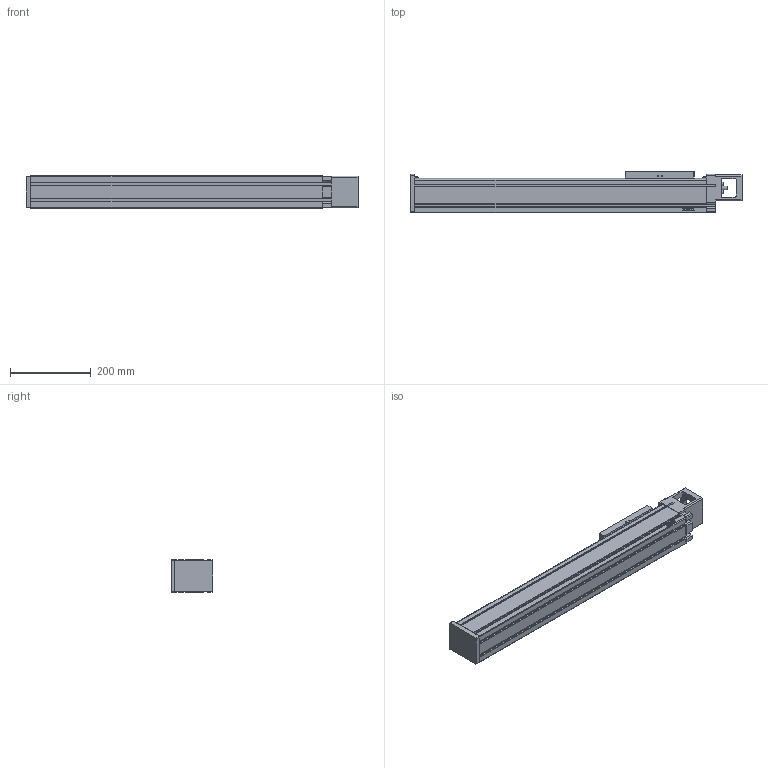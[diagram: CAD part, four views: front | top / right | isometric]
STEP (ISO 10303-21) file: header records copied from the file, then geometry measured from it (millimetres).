
FILE_DESCRIPTION(/* description */ (''),/* implementation_level */ '2;1');
FILE_NAME(/* name */ 'D:\混合母檔20191031\混和母檔\混和母檔\bin\Debug\Download\3D\KU80-5C-500AF0\KU80-5C-500AF0.stp',/* time_stamp */ '2019-11-04T16:53:49+08:00',/* author */ ('user'),/* organization */ (''),/* preprocessor_version */ 'ST-DEVELOPER v16.13',/* originating_system */ 'Autodesk Inventor 2018',/* authorisation */ '');
FILE_SCHEMA (('AUTOMOTIVE_DESIGN { 1 0 10303 214 3 1 1 }'));
Length unit declared in the file: millimetre
Products named in the file (3): KU80-5C-500AF0; KU80-F0-BP; KU80-SL
Assembly tree (2 placements, depth 2):
  KU80-5C-500AF0
    KU80-F0-BP
    KU80-SL
Bounding box: 820 x 103 x 80 mm (x, y, z)
Volume: 5159801.2 mm3; surface area: 453905.6 mm2
Topology: 2 solids, 10 shells, 862 faces, 2315 edges, 1508 vertices
Faces by surface type: plane 509, bspline 136, cylinder 104, cone 81, torus 28, sphere 4
Full cylindrical faces by diameter (mm): 2.459 x4, 2.729 x4, 3 x4, 3.242 x4, 3.5 x4, 4.134 x16, 5 x4, 5.5 x8, 5.6 x2, 8 x1, 8.5 x4, 12 x1, 46.5 x1
Entity records: 27990 total; most frequent: CARTESIAN_POINT 7413, ORIENTED_EDGE 4362, DIRECTION 3790, EDGE_CURVE 2181, VERTEX_POINT 1469, LINE 1298, VECTOR 1298, AXIS2_PLACEMENT_3D 1246
